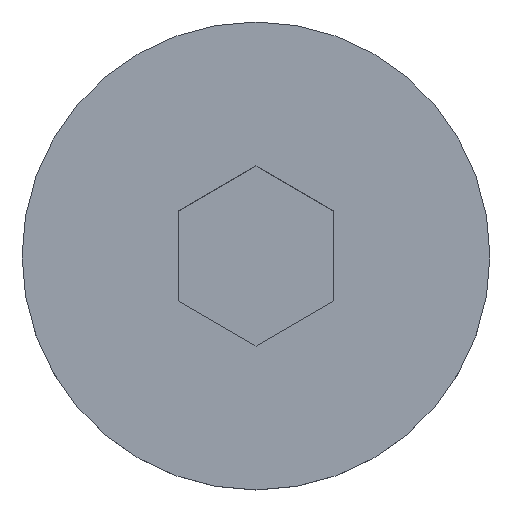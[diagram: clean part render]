
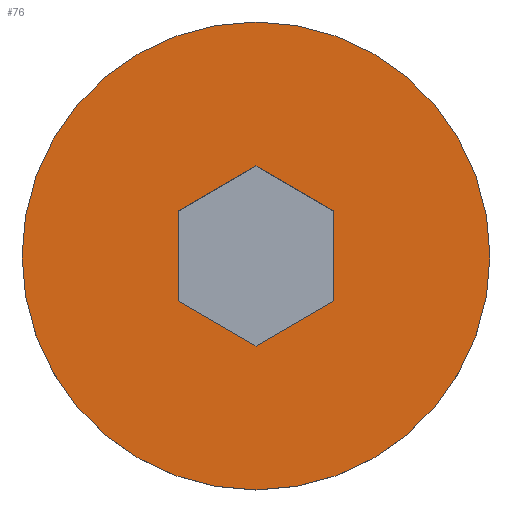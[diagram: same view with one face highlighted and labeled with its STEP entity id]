
A CAD part, top view. The second image highlights one B-rep face of the part: STEP entity #76.
In plain terms, the highlighted planar face has unit normal (0, 0, 1).
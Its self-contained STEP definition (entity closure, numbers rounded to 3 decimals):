
#2 = EDGE_CURVE ( 'NONE', #349, #129, #391, .T. ) ;
#21 = VERTEX_POINT ( 'NONE', #355 ) ;
#29 = DIRECTION ( 'NONE',  ( 0., 0., 1. ) ) ;
#51 = DIRECTION ( 'NONE',  ( 0.866, -0.5, 0. ) ) ;
#52 = LINE ( 'NONE', #381, #390 ) ;
#73 = ORIENTED_EDGE ( 'NONE', *, *, #386, .F. ) ;
#74 = CARTESIAN_POINT ( 'NONE',  ( 2.5, -1.443, 1.5 ) ) ;
#76 = ADVANCED_FACE ( 'NONE', ( #118, #96 ), #198, .T. ) ;
#90 = ORIENTED_EDGE ( 'NONE', *, *, #121, .F. ) ;
#95 = CARTESIAN_POINT ( 'NONE',  ( 2.5, 1.443, 1.5 ) ) ;
#96 = FACE_OUTER_BOUND ( 'NONE', #278, .T. ) ;
#100 = CARTESIAN_POINT ( 'NONE',  ( -7.5, 0., 1.5 ) ) ;
#101 = VECTOR ( 'NONE', #201, 1000. ) ;
#108 = DIRECTION ( 'NONE',  ( -0.866, 0.5, 0. ) ) ;
#113 = DIRECTION ( 'NONE',  ( 0., 1., 0. ) ) ;
#118 = FACE_BOUND ( 'NONE', #426, .T. ) ;
#121 = EDGE_CURVE ( 'NONE', #153, #343, #285, .T. ) ;
#124 = VECTOR ( 'NONE', #108, 1000. ) ;
#129 = VERTEX_POINT ( 'NONE', #100 ) ;
#136 = CIRCLE ( 'NONE', #384, 7.5 ) ;
#139 = CARTESIAN_POINT ( 'NONE',  ( 2.5, 1.443, 1.5 ) ) ;
#153 = VERTEX_POINT ( 'NONE', #330 ) ;
#160 = VECTOR ( 'NONE', #348, 1000. ) ;
#165 = DIRECTION ( 'NONE',  ( 1., 0., 0. ) ) ;
#168 = VERTEX_POINT ( 'NONE', #95 ) ;
#180 = EDGE_CURVE ( 'NONE', #168, #21, #334, .T. ) ;
#183 = CARTESIAN_POINT ( 'NONE',  ( 7.5, 0., 1.5 ) ) ;
#198 = PLANE ( 'NONE',  #265 ) ;
#201 = DIRECTION ( 'NONE',  ( 0., -1., 0. ) ) ;
#215 = DIRECTION ( 'NONE',  ( 0.866, 0.5, 0. ) ) ;
#218 = ORIENTED_EDGE ( 'NONE', *, *, #258, .T. ) ;
#225 = CARTESIAN_POINT ( 'NONE',  ( 0., 0., 1.5 ) ) ;
#226 = VECTOR ( 'NONE', #215, 1000. ) ;
#243 = CARTESIAN_POINT ( 'NONE',  ( 0., 0., 1.5 ) ) ;
#244 = VECTOR ( 'NONE', #113, 1000. ) ;
#248 = CARTESIAN_POINT ( 'NONE',  ( 0., 2.887, 1.5 ) ) ;
#252 = CARTESIAN_POINT ( 'NONE',  ( 0., -2.887, 1.5 ) ) ;
#258 = EDGE_CURVE ( 'NONE', #129, #349, #136, .T. ) ;
#259 = ORIENTED_EDGE ( 'NONE', *, *, #2, .T. ) ;
#263 = ORIENTED_EDGE ( 'NONE', *, *, #353, .F. ) ;
#265 = AXIS2_PLACEMENT_3D ( 'NONE', #399, #29, #165 ) ;
#278 = EDGE_LOOP ( 'NONE', ( #218, #259 ) ) ;
#279 = ORIENTED_EDGE ( 'NONE', *, *, #312, .F. ) ;
#285 = LINE ( 'NONE', #301, #101 ) ;
#292 = VERTEX_POINT ( 'NONE', #342 ) ;
#296 = LINE ( 'NONE', #248, #160 ) ;
#301 = CARTESIAN_POINT ( 'NONE',  ( -2.5, 1.443, 1.5 ) ) ;
#312 = EDGE_CURVE ( 'NONE', #21, #153, #296, .T. ) ;
#314 = CARTESIAN_POINT ( 'NONE',  ( -2.5, -1.443, 1.5 ) ) ;
#326 = DIRECTION ( 'NONE',  ( 0., 0., 1. ) ) ;
#327 = DIRECTION ( 'NONE',  ( 1., 0., 0. ) ) ;
#328 = LINE ( 'NONE', #252, #226 ) ;
#330 = CARTESIAN_POINT ( 'NONE',  ( -2.5, 1.443, 1.5 ) ) ;
#331 = LINE ( 'NONE', #74, #244 ) ;
#334 = LINE ( 'NONE', #139, #124 ) ;
#336 = ORIENTED_EDGE ( 'NONE', *, *, #360, .F. ) ;
#339 = DIRECTION ( 'NONE',  ( 0., 0., 1. ) ) ;
#342 = CARTESIAN_POINT ( 'NONE',  ( 0., -2.887, 1.5 ) ) ;
#343 = VERTEX_POINT ( 'NONE', #314 ) ;
#348 = DIRECTION ( 'NONE',  ( -0.866, -0.5, 0. ) ) ;
#349 = VERTEX_POINT ( 'NONE', #183 ) ;
#353 = EDGE_CURVE ( 'NONE', #292, #421, #328, .T. ) ;
#355 = CARTESIAN_POINT ( 'NONE',  ( 0., 2.887, 1.5 ) ) ;
#360 = EDGE_CURVE ( 'NONE', #343, #292, #52, .T. ) ;
#370 = DIRECTION ( 'NONE',  ( 1., 0., 0. ) ) ;
#380 = CARTESIAN_POINT ( 'NONE',  ( 2.5, -1.443, 1.5 ) ) ;
#381 = CARTESIAN_POINT ( 'NONE',  ( -2.5, -1.443, 1.5 ) ) ;
#384 = AXIS2_PLACEMENT_3D ( 'NONE', #243, #339, #370 ) ;
#386 = EDGE_CURVE ( 'NONE', #421, #168, #331, .T. ) ;
#390 = VECTOR ( 'NONE', #51, 1000. ) ;
#391 = CIRCLE ( 'NONE', #415, 7.5 ) ;
#399 = CARTESIAN_POINT ( 'NONE',  ( 0., 0., 1.5 ) ) ;
#405 = ORIENTED_EDGE ( 'NONE', *, *, #180, .F. ) ;
#415 = AXIS2_PLACEMENT_3D ( 'NONE', #225, #326, #327 ) ;
#421 = VERTEX_POINT ( 'NONE', #380 ) ;
#426 = EDGE_LOOP ( 'NONE', ( #405, #73, #263, #336, #90, #279 ) ) ;
